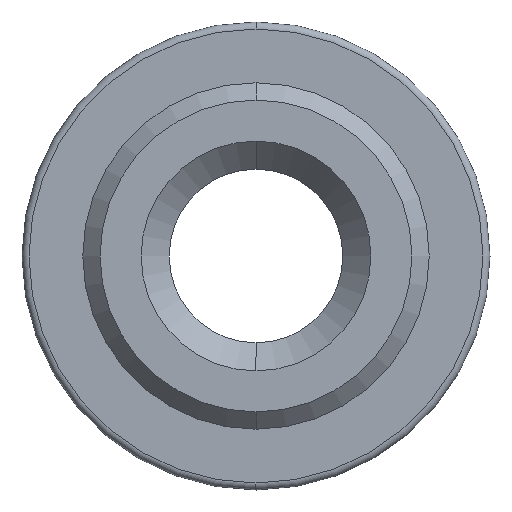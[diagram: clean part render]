
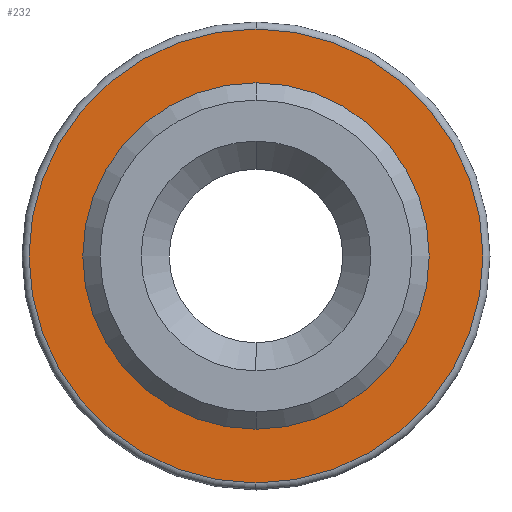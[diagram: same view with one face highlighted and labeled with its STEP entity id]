
A CAD part, left-side view. The second image highlights one B-rep face of the part: STEP entity #232.
In plain terms, the highlighted planar face has unit normal (-1, 0, 0).
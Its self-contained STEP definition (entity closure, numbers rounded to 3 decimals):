
#232=ADVANCED_FACE('',(#588,#589),#590,.T.);
#588=FACE_BOUND('',#1076,.T.);
#589=FACE_OUTER_BOUND('',#1077,.T.);
#590=PLANE('',#1078);
#1076=EDGE_LOOP('',(#1688,#1689));
#1077=EDGE_LOOP('',(#1690,#1691));
#1078=AXIS2_PLACEMENT_3D('',#1692,#1693,#1694);
#1688=ORIENTED_EDGE('',*,*,#2875,.F.);
#1689=ORIENTED_EDGE('',*,*,#2955,.F.);
#1690=ORIENTED_EDGE('',*,*,#2953,.T.);
#1691=ORIENTED_EDGE('',*,*,#2881,.T.);
#1692=CARTESIAN_POINT('',(1.524,0.,-3.052));
#1693=DIRECTION('',(-1.0,0.0,0.));
#1694=DIRECTION('',(0.,0.0,-1.0));
#2875=EDGE_CURVE('',#3424,#3426,#3427,.T.);
#2881=EDGE_CURVE('',#3431,#3435,#3437,.T.);
#2953=EDGE_CURVE('',#3435,#3431,#3537,.T.);
#2955=EDGE_CURVE('',#3426,#3424,#3539,.T.);
#3424=VERTEX_POINT('',#4230);
#3426=VERTEX_POINT('',#4233);
#3427=CIRCLE('',#4234,2.642);
#3431=VERTEX_POINT('',#4239);
#3435=VERTEX_POINT('',#4243);
#3437=CIRCLE('',#4245,3.462);
#3537=CIRCLE('',#4363,3.462);
#3539=CIRCLE('',#4365,2.642);
#4230=CARTESIAN_POINT('',(1.524,0.,-2.642));
#4233=CARTESIAN_POINT('',(1.524,0.,2.642));
#4234=AXIS2_PLACEMENT_3D('',#5375,#5376,#5377);
#4239=CARTESIAN_POINT('',(1.524,0.,3.462));
#4243=CARTESIAN_POINT('',(1.524,0.,-3.462));
#4245=AXIS2_PLACEMENT_3D('',#5388,#5389,#5390);
#4363=AXIS2_PLACEMENT_3D('',#5496,#5497,#5498);
#4365=AXIS2_PLACEMENT_3D('',#5499,#5500,#5501);
#5375=CARTESIAN_POINT('',(1.524,0.0,0.));
#5376=DIRECTION('',(-1.0,0.0,0.));
#5377=DIRECTION('',(0.,0.0,-1.0));
#5388=CARTESIAN_POINT('',(1.524,0.0,0.));
#5389=DIRECTION('',(-1.0,0.0,0.));
#5390=DIRECTION('',(0.,0.0,-1.0));
#5496=CARTESIAN_POINT('',(1.524,0.0,0.));
#5497=DIRECTION('',(-1.0,0.0,0.));
#5498=DIRECTION('',(0.,0.0,-1.0));
#5499=CARTESIAN_POINT('',(1.524,0.0,0.));
#5500=DIRECTION('',(-1.0,0.0,0.));
#5501=DIRECTION('',(0.,0.0,-1.0));
